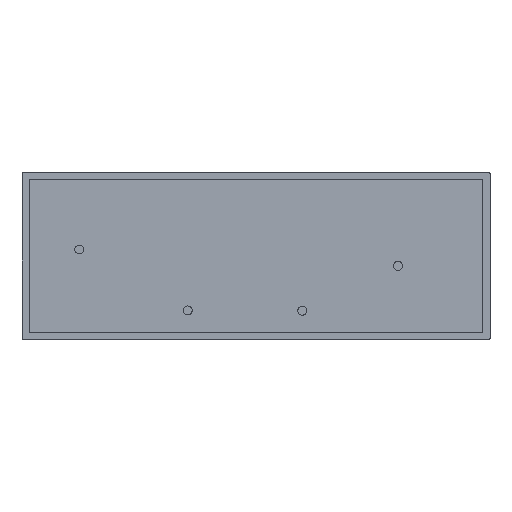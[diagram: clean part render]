
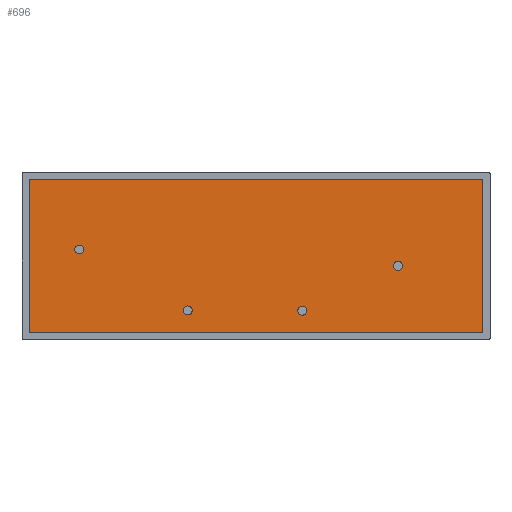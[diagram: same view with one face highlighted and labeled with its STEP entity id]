
A CAD part, top view. The second image highlights one B-rep face of the part: STEP entity #696.
In plain terms, the highlighted planar face has unit normal (0, 0, 1).
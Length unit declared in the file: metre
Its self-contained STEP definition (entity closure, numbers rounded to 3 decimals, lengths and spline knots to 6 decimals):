
#48=CIRCLE('',#761,0.003);
#49=CIRCLE('',#762,0.003);
#50=CIRCLE('',#763,0.003);
#51=CIRCLE('',#764,0.003);
#128=ORIENTED_EDGE('',*,*,#308,.F.);
#129=ORIENTED_EDGE('',*,*,#309,.F.);
#130=ORIENTED_EDGE('',*,*,#310,.F.);
#131=ORIENTED_EDGE('',*,*,#311,.F.);
#132=ORIENTED_EDGE('',*,*,#284,.T.);
#133=ORIENTED_EDGE('',*,*,#288,.T.);
#134=ORIENTED_EDGE('',*,*,#277,.F.);
#135=ORIENTED_EDGE('',*,*,#294,.F.);
#277=EDGE_CURVE('',#373,#374,#433,.T.);
#284=EDGE_CURVE('',#380,#381,#440,.T.);
#288=EDGE_CURVE('',#381,#374,#444,.T.);
#294=EDGE_CURVE('',#380,#373,#450,.T.);
#308=EDGE_CURVE('',#396,#396,#48,.T.);
#309=EDGE_CURVE('',#397,#397,#49,.T.);
#310=EDGE_CURVE('',#398,#398,#50,.T.);
#311=EDGE_CURVE('',#399,#399,#51,.T.);
#373=VERTEX_POINT('',#1089);
#374=VERTEX_POINT('',#1091);
#380=VERTEX_POINT('',#1105);
#381=VERTEX_POINT('',#1106);
#396=VERTEX_POINT('',#1150);
#397=VERTEX_POINT('',#1152);
#398=VERTEX_POINT('',#1154);
#399=VERTEX_POINT('',#1156);
#433=LINE('',#1090,#497);
#440=LINE('',#1104,#504);
#444=LINE('',#1113,#508);
#450=LINE('',#1124,#514);
#497=VECTOR('',#853,1.);
#504=VECTOR('',#862,1.);
#508=VECTOR('',#868,1.);
#514=VECTOR('',#876,1.);
#558=EDGE_LOOP('',(#128));
#559=EDGE_LOOP('',(#129));
#560=EDGE_LOOP('',(#130));
#561=EDGE_LOOP('',(#131));
#562=EDGE_LOOP('',(#132,#133,#134,#135));
#618=FACE_BOUND('',#558,.T.);
#619=FACE_BOUND('',#559,.T.);
#620=FACE_BOUND('',#560,.T.);
#621=FACE_BOUND('',#561,.T.);
#622=FACE_BOUND('',#562,.T.);
#673=PLANE('',#760);
#696=ADVANCED_FACE('',(#618,#619,#620,#621,#622),#673,.T.);
#760=AXIS2_PLACEMENT_3D('',#1148,#898,#899);
#761=AXIS2_PLACEMENT_3D('',#1149,#900,#901);
#762=AXIS2_PLACEMENT_3D('',#1151,#902,#903);
#763=AXIS2_PLACEMENT_3D('',#1153,#904,#905);
#764=AXIS2_PLACEMENT_3D('',#1155,#906,#907);
#853=DIRECTION('',(0.,-1.,0.));
#862=DIRECTION('',(0.,-1.,0.));
#868=DIRECTION('',(1.,0.,0.));
#876=DIRECTION('',(1.,0.,0.));
#898=DIRECTION('',(0.,0.,1.));
#899=DIRECTION('',(1.,0.,0.));
#900=DIRECTION('',(0.,0.,1.));
#901=DIRECTION('',(1.,0.,0.));
#902=DIRECTION('',(0.,0.,1.));
#903=DIRECTION('',(1.,0.,0.));
#904=DIRECTION('',(0.,0.,1.));
#905=DIRECTION('',(1.,0.,0.));
#906=DIRECTION('',(0.,0.,1.));
#907=DIRECTION('',(1.,0.,0.));
#1089=CARTESIAN_POINT('',(0.162129,0.014106,0.005));
#1090=CARTESIAN_POINT('',(0.162129,-0.037185,0.005));
#1091=CARTESIAN_POINT('',(0.162129,-0.088477,0.005));
#1104=CARTESIAN_POINT('',(-0.141915,-0.037185,0.005));
#1105=CARTESIAN_POINT('',(-0.141915,0.014106,0.005));
#1106=CARTESIAN_POINT('',(-0.141915,-0.088477,0.005));
#1113=CARTESIAN_POINT('',(0.010107,-0.088477,0.005));
#1124=CARTESIAN_POINT('',(0.010107,0.014106,0.005));
#1148=CARTESIAN_POINT('',(0.010107,-0.037185,0.005));
#1149=CARTESIAN_POINT('',(-0.108406,-0.032819,0.005));
#1150=CARTESIAN_POINT('',(-0.105406,-0.032819,0.005));
#1151=CARTESIAN_POINT('',(-0.035676,-0.073704,0.005));
#1152=CARTESIAN_POINT('',(-0.032676,-0.073704,0.005));
#1153=CARTESIAN_POINT('',(0.041234,-0.073834,0.005));
#1154=CARTESIAN_POINT('',(0.044234,-0.073834,0.005));
#1155=CARTESIAN_POINT('',(0.105394,-0.043774,0.005));
#1156=CARTESIAN_POINT('',(0.108394,-0.043774,0.005));
